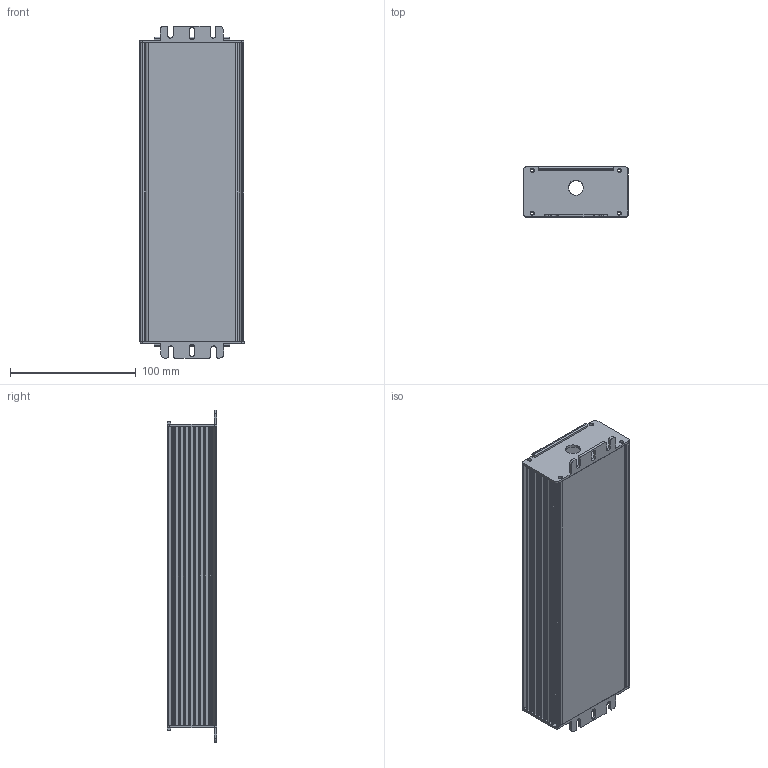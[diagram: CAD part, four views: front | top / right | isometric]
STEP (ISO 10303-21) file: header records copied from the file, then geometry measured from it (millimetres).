
FILE_DESCRIPTION((''),'2;1');
FILE_NAME('ASM0085_ASM','2021-06-07T',('Arbiter.he'),(''),'PRO/ENGINEER BY PARAMETRIC TECHNOLOGY CORPORATION, 2010280','PRO/ENGINEER BY PARAMETRIC TECHNOLOGY CORPORATION, 2010280','');
FILE_SCHEMA(('CONFIG_CONTROL_DESIGN'));
Length unit declared in the file: millimetre
Products named in the file (3): BASIC; COVER; ASM0085_ASM
Assembly tree (3 placements, depth 2):
  ASM0085_ASM
    BASIC
    COVER  x2
Bounding box: 83.34 x 39.5 x 264 mm (x, y, z)
Volume: 152154.1 mm3; surface area: 184102.8 mm2
Topology: 3 solids, 3 shells, 396 faces, 1170 edges, 780 vertices
Faces by surface type: plane 241, cylinder 155
Entity records: 11798 total; most frequent: CARTESIAN_POINT 2142, ORIENTED_EDGE 2064, DIRECTION 1966, EDGE_CURVE 1032, VECTOR 774, LINE 774, VERTEX_POINT 688, AXIS2_PLACEMENT_3D 596
